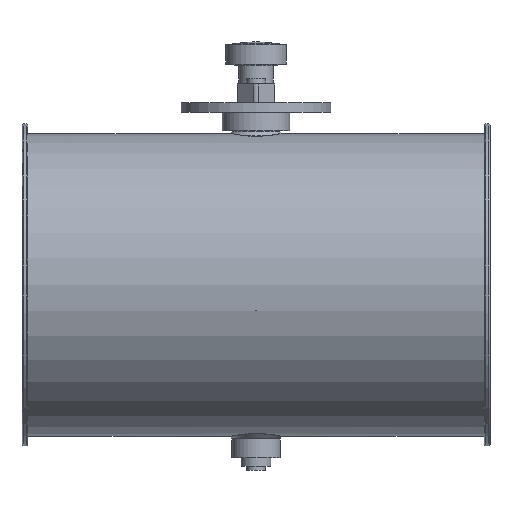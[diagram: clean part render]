
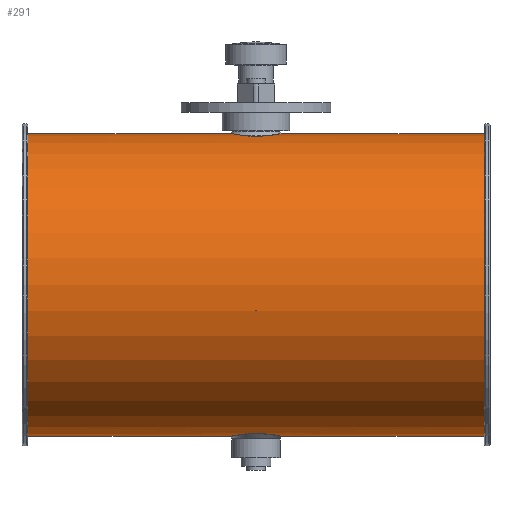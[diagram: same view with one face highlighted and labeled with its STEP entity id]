
A CAD part, top view. The second image highlights one B-rep face of the part: STEP entity #291.
In plain terms, the highlighted cylindrical face has radius 80.8 mm (diameter 161.6 mm), a full revolution.
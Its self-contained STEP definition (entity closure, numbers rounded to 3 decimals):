
#291=ADVANCED_FACE('',(#433,#434,#435,#436),#391,.T.);
#391=CYLINDRICAL_SURFACE('',#1388,80.8);
#425=B_SPLINE_CURVE_WITH_KNOTS('',3,(#1967,#1968,#1969,#1970,#1971,#1972,
#1973,#1974,#1975,#1976,#1977,#1978,#1979,#1980,#1981,#1982,#1983,#1984,
#1985,#1986,#1987,#1988),.UNSPECIFIED.,.T.,.F.,(2,2,2,2,2,2,2,2,2,2,2,2,
2),(-0.063,0.,0.125,0.25,0.375,0.437,
0.5,0.625,0.75,0.875,0.938,1.,1.125),
 .UNSPECIFIED.);
#426=B_SPLINE_CURVE_WITH_KNOTS('',3,(#1990,#1991,#1992,#1993,#1994,#1995,
#1996,#1997,#1998,#1999,#2000,#2001,#2002,#2003,#2004,#2005,#2006,#2007,
#2008,#2009,#2010,#2011),.UNSPECIFIED.,.T.,.F.,(2,2,2,2,2,2,2,2,2,2,2,2,
2),(-0.125,0.,0.062,0.125,0.25,0.375,0.5,0.563,
0.625,0.75,0.875,1.,1.063),.UNSPECIFIED.);
#433=FACE_BOUND('',#601,.T.);
#434=FACE_BOUND('',#602,.T.);
#435=FACE_BOUND('',#603,.T.);
#436=FACE_BOUND('',#604,.T.);
#601=EDGE_LOOP('',(#791));
#602=EDGE_LOOP('',(#792));
#603=EDGE_LOOP('',(#793));
#604=EDGE_LOOP('',(#794));
#791=ORIENTED_EDGE('',*,*,#1171,.T.);
#792=ORIENTED_EDGE('',*,*,#1172,.T.);
#793=ORIENTED_EDGE('',*,*,#1173,.T.);
#794=ORIENTED_EDGE('',*,*,#1174,.F.);
#1055=VERTEX_POINT('',#1966);
#1056=VERTEX_POINT('',#1989);
#1057=VERTEX_POINT('',#2012);
#1058=VERTEX_POINT('',#2014);
#1171=EDGE_CURVE('',#1055,#1055,#1303,.T.);
#1172=EDGE_CURVE('',#1056,#1056,#425,.T.);
#1173=EDGE_CURVE('',#1057,#1057,#426,.T.);
#1174=EDGE_CURVE('',#1058,#1058,#1304,.T.);
#1303=CIRCLE('',#1386,80.8);
#1304=CIRCLE('',#1387,80.8);
#1386=AXIS2_PLACEMENT_3D('',#1965,#1566,#1567);
#1387=AXIS2_PLACEMENT_3D('',#2013,#1568,#1569);
#1388=AXIS2_PLACEMENT_3D('',#2015,#1570,#1571);
#1566=DIRECTION('',(1.,0.,0.));
#1567=DIRECTION('',(0.,0.,1.));
#1568=DIRECTION('',(1.,0.,0.));
#1569=DIRECTION('',(0.,0.,1.));
#1570=DIRECTION('',(1.,0.,0.));
#1571=DIRECTION('',(0.,0.,-1.));
#1965=CARTESIAN_POINT('',(-122.,-38.3,125.));
#1966=CARTESIAN_POINT('',(-122.,-38.3,205.8));
#1967=CARTESIAN_POINT('',(-2.062,-117.599,109.488));
#1968=CARTESIAN_POINT('',(-7.671,-117.937,111.287));
#1969=CARTESIAN_POINT('',(-10.71,-118.443,114.144));
#1970=CARTESIAN_POINT('',(-14.158,-119.079,121.063));
#1971=CARTESIAN_POINT('',(-14.603,-119.187,125.197));
#1972=CARTESIAN_POINT('',(-12.776,-118.819,132.714));
#1973=CARTESIAN_POINT('',(-10.485,-118.352,136.179));
#1974=CARTESIAN_POINT('',(-5.655,-117.819,139.371));
#1975=CARTESIAN_POINT('',(-3.811,-117.676,140.104));
#1976=CARTESIAN_POINT('',(0.052,-117.565,140.679));
#1977=CARTESIAN_POINT('',(2.042,-117.599,140.514));
#1978=CARTESIAN_POINT('',(7.634,-117.934,138.733));
#1979=CARTESIAN_POINT('',(10.688,-118.439,135.895));
#1980=CARTESIAN_POINT('',(14.17,-119.081,128.919));
#1981=CARTESIAN_POINT('',(14.607,-119.188,124.81));
#1982=CARTESIAN_POINT('',(12.77,-118.818,117.267));
#1983=CARTESIAN_POINT('',(10.468,-118.349,113.802));
#1984=CARTESIAN_POINT('',(5.638,-117.818,110.621));
#1985=CARTESIAN_POINT('',(3.774,-117.675,109.887));
#1986=CARTESIAN_POINT('',(-0.058,-117.565,109.324));
#1987=CARTESIAN_POINT('',(-2.062,-117.599,109.488));
#1988=CARTESIAN_POINT('',(-7.671,-117.937,111.287));
#1989=CARTESIAN_POINT('',(-3.932,-117.712,110.088));
#1990=CARTESIAN_POINT('',(-7.672,41.337,111.288));
#1991=CARTESIAN_POINT('',(-2.062,40.999,109.488));
#1992=CARTESIAN_POINT('',(-0.076,40.965,109.323));
#1993=CARTESIAN_POINT('',(3.765,41.074,109.884));
#1994=CARTESIAN_POINT('',(5.623,41.216,110.612));
#1995=CARTESIAN_POINT('',(10.487,41.751,113.813));
#1996=CARTESIAN_POINT('',(12.778,42.219,117.279));
#1997=CARTESIAN_POINT('',(14.609,42.588,124.842));
#1998=CARTESIAN_POINT('',(14.155,42.478,128.954));
#1999=CARTESIAN_POINT('',(10.699,41.841,135.869));
#2000=CARTESIAN_POINT('',(7.658,41.337,138.712));
#2001=CARTESIAN_POINT('',(2.088,41.001,140.505));
#2002=CARTESIAN_POINT('',(0.12,40.964,140.68));
#2003=CARTESIAN_POINT('',(-3.773,41.074,140.118));
#2004=CARTESIAN_POINT('',(-5.62,41.216,139.389));
#2005=CARTESIAN_POINT('',(-10.475,41.749,136.197));
#2006=CARTESIAN_POINT('',(-12.769,42.218,132.74));
#2007=CARTESIAN_POINT('',(-14.61,42.589,125.171));
#2008=CARTESIAN_POINT('',(-14.173,42.481,121.088));
#2009=CARTESIAN_POINT('',(-10.689,41.839,114.106));
#2010=CARTESIAN_POINT('',(-7.672,41.337,111.288));
#2011=CARTESIAN_POINT('',(-2.062,40.999,109.488));
#2012=CARTESIAN_POINT('',(-3.932,41.112,110.088));
#2013=CARTESIAN_POINT('',(122.,-38.3,125.));
#2014=CARTESIAN_POINT('',(122.,-38.3,205.8));
#2015=CARTESIAN_POINT('',(-125.,-38.3,125.));
